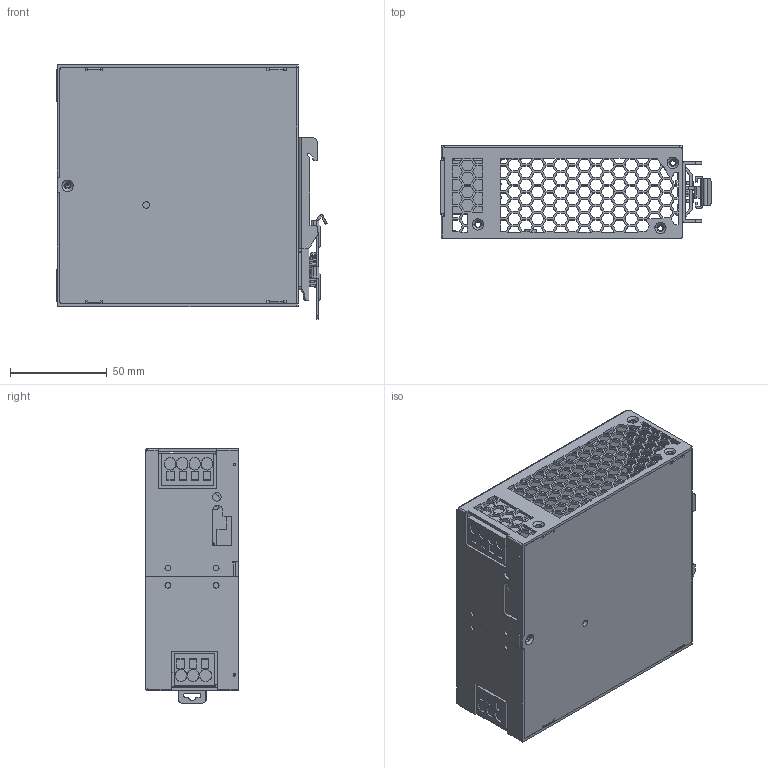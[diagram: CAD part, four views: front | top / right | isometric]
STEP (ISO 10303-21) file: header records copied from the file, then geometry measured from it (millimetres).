
FILE_DESCRIPTION(('Creo Elements/Direct Modeling STEP Export'),'2;1');
FILE_NAME('PI.stp','2025-12-02T10:07:47',(''),(''),'Creo Elements/Direct Modeling STEP processor for AP214 (Solid Model)','Creo Elements/Direct Modeling 19.0G 27-Nov-2017 (C) Parametric Technology GmbH','');
FILE_SCHEMA(('AUTOMOTIVE_DESIGN { 1 0 10303 214 1 1 1 1 }'));
Length unit declared in the file: millimetre
Products named in the file (112): 麦拉; 散热片-3; 散热片; hs1; PIN2-2.1; PIN2-2.1.1; HSA1; 1078469408; 1078469568; 1GG2-MHS059; HS2; 15.1; 15.3; 15.2; 挂座; 上盖; 下盖; 上下盖; NSDR-480; HS2.1; CASE.1; BOARD.PRT; MPX410H-6358043701_20241017.PRT; TB2.ASM; MPX410H-6358033701_20241017.PRT; TB1.ASM; 512774800_1.PRT; 512774800_2.PRT; 512774800_3.PRT; 512774800_4.PRT; 512774800.ASM; R4.ASM; R3.ASM; CYLINDER-39746.PRT; 512786504.ASM; C1.ASM; USER_LIBRARY-KBJ-GSIB.PRT; BD1.ASM; EXTRUDED-109281.PRT; 2ARD-SURGE_ARRESTER.ASM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
Assembly tree (126 placements, depth 6):
  BPI
    XDR-480BPI-R2X.step
      PCB.ASM
        R118.ASM
          512774952.ASM
            512774952_4.PRT
            512774952_3.PRT
            512774952_2.PRT
            512774952_1.PRT
        R117.ASM
          512774952.ASM
            512774952_4.PRT
            512774952_3.PRT
            512774952_2.PRT
            512774952_1.PRT
        R116.ASM
          512774952.ASM
            512774952_4.PRT
            512774952_3.PRT
            512774952_2.PRT
            512774952_1.PRT
        D6.ASM
          2ARD-SURGE_ARRESTER_4072498801.ASM.5  x2
            EXTRUDED-111681.PRT
          2ARD-SURGE_ARRESTER.ASM
            EXTRUDED-109281.PRT
        FS1.ASM
          512788328.ASM
            CYLINDER-174005.PRT
          512788480.ASM
            CYLINDER-173813.PRT
          512788632.ASM
            CYLINDER-173621.PRT
          512788784.ASM
            CYLINDER-173429.PRT
          512788936.ASM
            CYLINDER-173237.PRT
          512789088.ASM
            CYLINDER-173045.PRT
          685543904.ASM
            CYLINDER-172853.PRT
          PIN-P7_5_RGB12632256.PRT
        R115.ASM
          512774952.ASM
            512774952_4.PRT
            512774952_3.PRT
            512774952_2.PRT
            512774952_1.PRT
        C109.ASM
          512787872.ASM
            CYLINDER-159443.PRT
          512788024.ASM.6  x2
            CYLINDER-159246.PRT
          512788176.ASM
            CYLINDER-159054.PRT
          622760384.ASM
            EXTRUDED-155172.PRT
        C108.ASM
          512787416.ASM
            CYLINDER-154941.PRT
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Bounding box: 140.02 x 48 x 131.69 mm (x, y, z)
Volume: 115063.8 mm3; surface area: 139841.2 mm2
Topology: 78 solids, 78 shells, 4248 faces, 11755 edges, 7658 vertices
Faces by surface type: plane 2951, cylinder 624, extrusion 357, torus 112, sphere 105, cone 82, bspline 12, revolution 5
Entity records: 192902 total; most frequent: CARTESIAN_POINT 93080, ORIENTED_EDGE 19636, DIRECTION 17141, EDGE_CURVE 9818, VECTOR 7704, LINE 7563, VERTEX_POINT 6443, AXIS2_PLACEMENT_3D 4716
